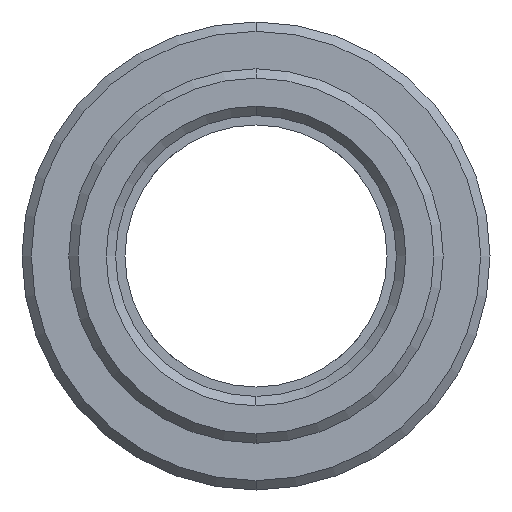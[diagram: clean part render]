
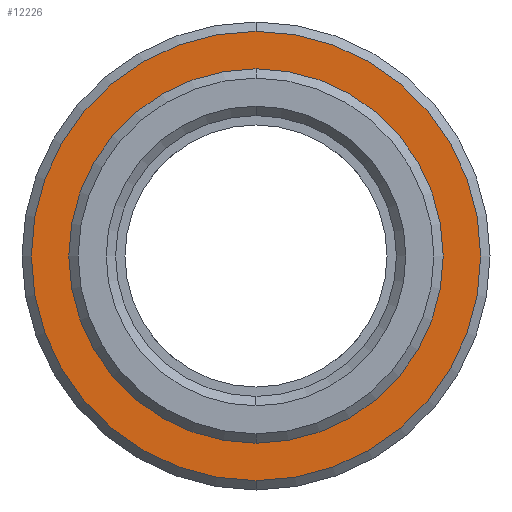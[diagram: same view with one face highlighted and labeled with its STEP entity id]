
A CAD part, left-side view. The second image highlights one B-rep face of the part: STEP entity #12226.
In plain terms, the highlighted planar face has unit normal (-1, 0, 0).
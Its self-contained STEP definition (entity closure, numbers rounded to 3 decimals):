
#4800=CARTESIAN_POINT('',(0.,0.,0.));
#4801=DIRECTION('',(1.,0.,0.));
#4802=DIRECTION('',(0.,0.,1.));
#4803=AXIS2_PLACEMENT_3D('',#4800,#4801,#4802);
#4805=CARTESIAN_POINT('',(0.,0.,0.));
#4806=DIRECTION('',(-1.,0.,0.));
#4807=DIRECTION('',(0.,0.,1.));
#4808=AXIS2_PLACEMENT_3D('',#4805,#4806,#4807);
#4810=CARTESIAN_POINT('',(0.,0.,
0.));
#4811=DIRECTION('',(1.,0.,0.));
#4812=DIRECTION('',(0.,0.,-1.));
#4813=AXIS2_PLACEMENT_3D('',#4810,#4811,#4812);
#4815=CARTESIAN_POINT('',(0.,0.,
0.));
#4816=DIRECTION('',(1.,0.,0.));
#4817=DIRECTION('',(0.,0.,1.));
#4818=AXIS2_PLACEMENT_3D('',#4815,#4816,#4817);
#9802=CARTESIAN_POINT('',(0.,0.,-12.));
#9803=CARTESIAN_POINT('',(0.,0.,12.));
#9804=VERTEX_POINT('',#9802);
#9805=VERTEX_POINT('',#9803);
#10112=CARTESIAN_POINT('',(0.,0.,10.));
#10113=CARTESIAN_POINT('',(0.,0.,-10.));
#10114=VERTEX_POINT('',#10112);
#10115=VERTEX_POINT('',#10113);
#12211=CARTESIAN_POINT('',(0.,0.,0.));
#12212=DIRECTION('',(1.,0.,0.));
#12213=DIRECTION('',(0.,0.,1.));
#12214=AXIS2_PLACEMENT_3D('',#12211,#12212,#12213);
#12215=PLANE('',#12214);
#12217=ORIENTED_EDGE('',*,*,#12216,.T.);
#12219=ORIENTED_EDGE('',*,*,#12218,.T.);
#12220=EDGE_LOOP('',(#12217,#12219));
#12221=FACE_OUTER_BOUND('',#12220,.F.);
#12222=ORIENTED_EDGE('',*,*,#12178,.F.);
#12223=ORIENTED_EDGE('',*,*,#12193,.T.);
#12224=EDGE_LOOP('',(#12222,#12223));
#12225=FACE_BOUND('',#12224,.F.);
#12226=ADVANCED_FACE('',(#12221,#12225),#12215,.F.);
#4804=CIRCLE('',#4803,10.);
#4809=CIRCLE('',#4808,10.);
#4814=CIRCLE('',#4813,12.);
#4819=CIRCLE('',#4818,12.);
#12178=EDGE_CURVE('',#10114,#10115,#4804,.T.);
#12193=EDGE_CURVE('',#10114,#10115,#4809,.T.);
#12216=EDGE_CURVE('',#9804,#9805,#4814,.T.);
#12218=EDGE_CURVE('',#9805,#9804,#4819,.T.);
